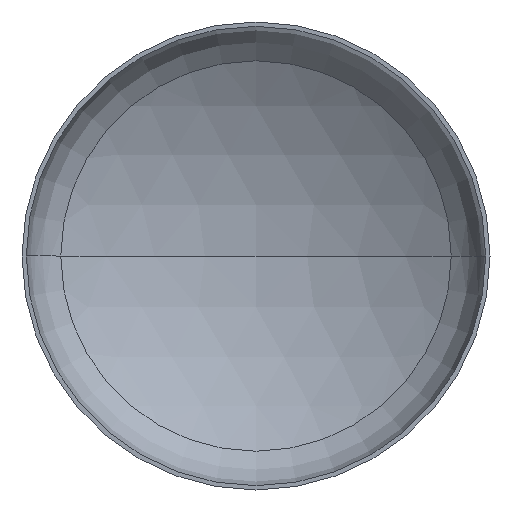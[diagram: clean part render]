
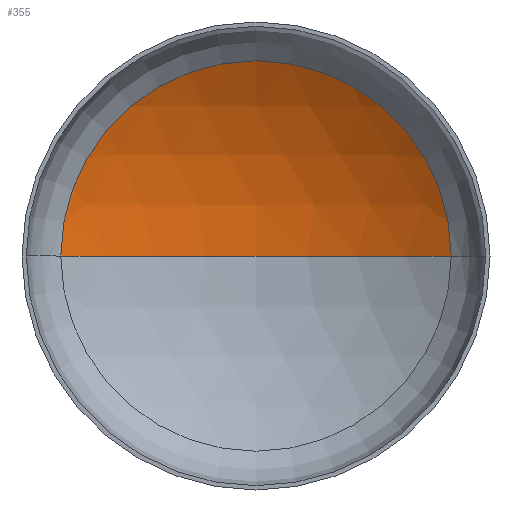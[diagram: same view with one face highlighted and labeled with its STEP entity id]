
A CAD part, front view. The second image highlights one B-rep face of the part: STEP entity #355.
In plain terms, the highlighted spherical face has radius 3040 mm.
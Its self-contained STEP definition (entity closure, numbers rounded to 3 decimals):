
#9 = VERTEX_POINT ( 'NONE', #287 ) ;
#16 = ORIENTED_EDGE ( 'NONE', *, *, #142, .T. ) ;
#22 = ORIENTED_EDGE ( 'NONE', *, *, #140, .T. ) ;
#29 = EDGE_LOOP ( 'NONE', ( #56, #16, #22 ) ) ;
#43 = AXIS2_PLACEMENT_3D ( 'NONE', #256, #255, #254 ) ;
#46 = AXIS2_PLACEMENT_3D ( 'NONE', #200, #205, #217 ) ;
#50 = VERTEX_POINT ( 'NONE', #247 ) ;
#51 = AXIS2_PLACEMENT_3D ( 'NONE', #295, #100, #154 ) ;
#56 = ORIENTED_EDGE ( 'NONE', *, *, #145, .F. ) ;
#100 = DIRECTION ( 'NONE',  ( 0., -1., 0. ) ) ;
#107 = VERTEX_POINT ( 'NONE', #360 ) ;
#129 = CARTESIAN_POINT ( 'NONE',  ( 0., -1984.905, 0. ) ) ;
#140 = EDGE_CURVE ( 'NONE', #50, #9, #152, .T. ) ;
#142 = EDGE_CURVE ( 'NONE', #107, #50, #398, .T. ) ;
#145 = EDGE_CURVE ( 'NONE', #107, #9, #273, .T. ) ;
#152 = CIRCLE ( 'NONE', #51, 1585.01 ) ;
#154 = DIRECTION ( 'NONE',  ( 1., 0., 0. ) ) ;
#170 = SPHERICAL_SURFACE ( 'NONE', #382, 3040. ) ;
#184 = DIRECTION ( 'NONE',  ( -1., 0., 0. ) ) ;
#198 = DIRECTION ( 'NONE',  ( 0., 0., -1. ) ) ;
#200 = CARTESIAN_POINT ( 'NONE',  ( 0., -1984.905, 0. ) ) ;
#205 = DIRECTION ( 'NONE',  ( 0., 0., -1. ) ) ;
#217 = DIRECTION ( 'NONE',  ( -1., 0., 0. ) ) ;
#237 = FACE_OUTER_BOUND ( 'NONE', #29, .T. ) ;
#247 = CARTESIAN_POINT ( 'NONE',  ( 1585.01, 609.193, 0. ) ) ;
#254 = DIRECTION ( 'NONE',  ( 1., 0., 0. ) ) ;
#255 = DIRECTION ( 'NONE',  ( 0., 0., 1. ) ) ;
#256 = CARTESIAN_POINT ( 'NONE',  ( 0., -1984.905, 0. ) ) ;
#273 = CIRCLE ( 'NONE', #43, 3040. ) ;
#287 = CARTESIAN_POINT ( 'NONE',  ( -1585.01, 609.193, 0. ) ) ;
#295 = CARTESIAN_POINT ( 'NONE',  ( 0., 609.193, 0. ) ) ;
#355 = ADVANCED_FACE ( 'NONE', ( #237 ), #170, .F. ) ;
#360 = CARTESIAN_POINT ( 'NONE',  ( 0., 1055.095, 0. ) ) ;
#382 = AXIS2_PLACEMENT_3D ( 'NONE', #129, #198, #184 ) ;
#398 = CIRCLE ( 'NONE', #46, 3040. ) ;
